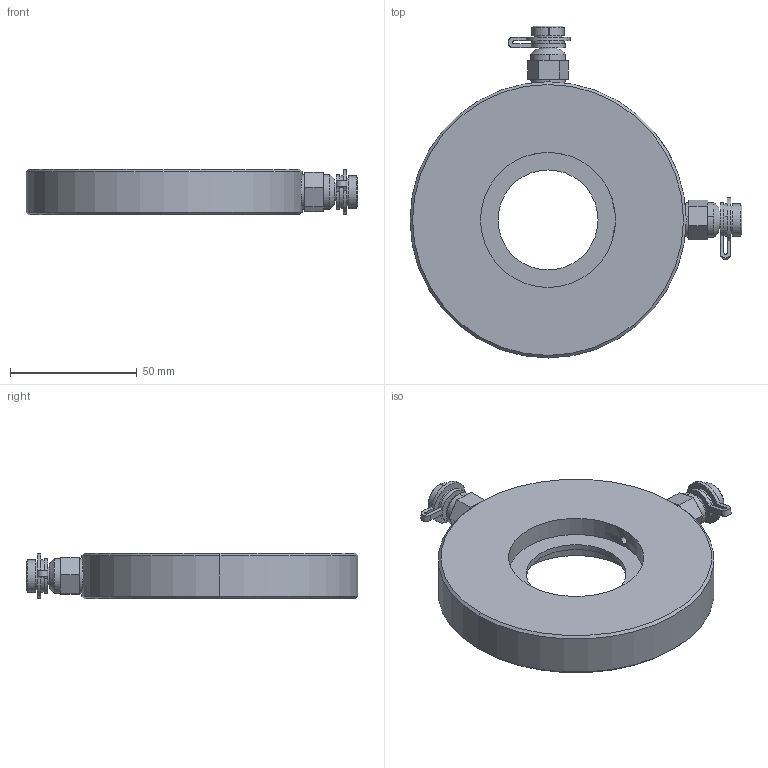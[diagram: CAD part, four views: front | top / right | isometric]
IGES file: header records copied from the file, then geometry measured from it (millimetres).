
Global section: file name: No Iges File Name specified; native system: AutoDesk Inventor R12.0; preprocessor: AutoDesk Inventor Iges Exporter R12.0; date: 20101222.165453; units: millimetre
Bounding box: 131.1 x 131.1 x 18 mm (x, y, z)
Volume: 136182.4 mm3; surface area: 28412.1 mm2
Topology: 1 solids, 1 shells, 125 faces, 292 edges, 188 vertices
Faces by surface type: plane 48, cylinder 29, bspline 18, cone 16, revolution 14
